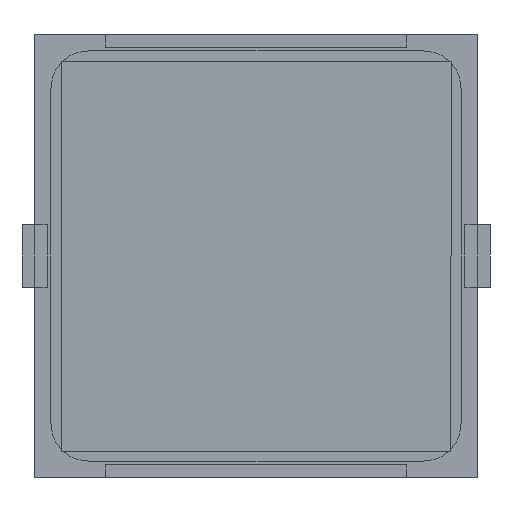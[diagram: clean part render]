
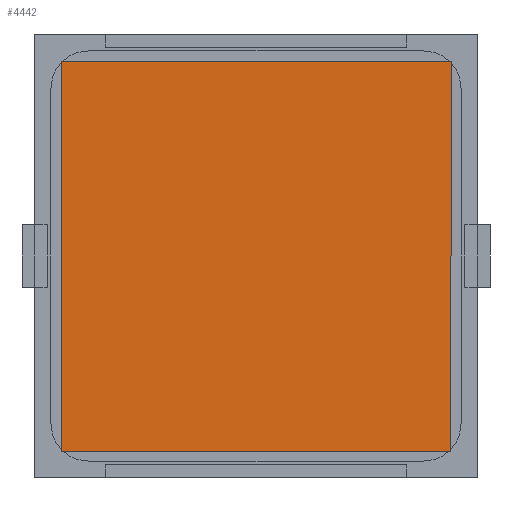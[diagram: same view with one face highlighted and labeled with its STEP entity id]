
A CAD part, front view. The second image highlights one B-rep face of the part: STEP entity #4442.
In plain terms, the highlighted planar face has unit normal (0, -1, 0).
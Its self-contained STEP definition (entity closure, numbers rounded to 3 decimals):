
#270 = CARTESIAN_POINT ( 'NONE',  ( -15.5, -0.127, 15.5 ) ) ;
#494 = VECTOR ( 'NONE', #12077, 1000. ) ;
#547 = CARTESIAN_POINT ( 'NONE',  ( -15.5, -0.127, -15.5 ) ) ;
#1603 = DIRECTION ( 'NONE',  ( -1., 0., 0. ) ) ;
#2400 = LINE ( 'NONE', #547, #3773 ) ;
#2500 = ORIENTED_EDGE ( 'NONE', *, *, #2889, .F. ) ;
#2750 = CARTESIAN_POINT ( 'NONE',  ( 15.5, -0.127, -15.5 ) ) ;
#2889 = EDGE_CURVE ( 'NONE', #11318, #10029, #7194, .T. ) ;
#3071 = CARTESIAN_POINT ( 'NONE',  ( -15.5, -0.127, 15.5 ) ) ;
#3773 = VECTOR ( 'NONE', #1603, 1000. ) ;
#3933 = EDGE_CURVE ( 'NONE', #6310, #7022, #5388, .T. ) ;
#3995 = ORIENTED_EDGE ( 'NONE', *, *, #8926, .F. ) ;
#4145 = LINE ( 'NONE', #3071, #12569 ) ;
#4263 = DIRECTION ( 'NONE',  ( 0., 1., 0. ) ) ;
#4330 = CARTESIAN_POINT ( 'NONE',  ( -15.5, -0.127, 15.5 ) ) ;
#4434 = ORIENTED_EDGE ( 'NONE', *, *, #12920, .F. ) ;
#4442 = ADVANCED_FACE ( 'NONE', ( #11593 ), #5114, .F. ) ;
#5114 = PLANE ( 'NONE',  #9697 ) ;
#5230 = DIRECTION ( 'NONE',  ( 0., 0., 1. ) ) ;
#5388 = LINE ( 'NONE', #7274, #494 ) ;
#6301 = DIRECTION ( 'NONE',  ( 1., 0., 0. ) ) ;
#6310 = VERTEX_POINT ( 'NONE', #9905 ) ;
#7022 = VERTEX_POINT ( 'NONE', #2750 ) ;
#7194 = LINE ( 'NONE', #11163, #7641 ) ;
#7274 = CARTESIAN_POINT ( 'NONE',  ( 15.5, -0.127, -15.5 ) ) ;
#7641 = VECTOR ( 'NONE', #5230, 1000. ) ;
#8657 = CARTESIAN_POINT ( 'NONE',  ( -15.5, -0.127, -15.5 ) ) ;
#8926 = EDGE_CURVE ( 'NONE', #10029, #6310, #4145, .T. ) ;
#9120 = EDGE_LOOP ( 'NONE', ( #2500, #4434, #11180, #3995 ) ) ;
#9697 = AXIS2_PLACEMENT_3D ( 'NONE', #4330, #4263, #11172 ) ;
#9905 = CARTESIAN_POINT ( 'NONE',  ( 15.5, -0.127, 15.5 ) ) ;
#10029 = VERTEX_POINT ( 'NONE', #270 ) ;
#11163 = CARTESIAN_POINT ( 'NONE',  ( -15.5, -0.127, -15.5 ) ) ;
#11172 = DIRECTION ( 'NONE',  ( 0., 0., 1. ) ) ;
#11180 = ORIENTED_EDGE ( 'NONE', *, *, #3933, .F. ) ;
#11318 = VERTEX_POINT ( 'NONE', #8657 ) ;
#11593 = FACE_OUTER_BOUND ( 'NONE', #9120, .T. ) ;
#12077 = DIRECTION ( 'NONE',  ( 0., 0., -1. ) ) ;
#12569 = VECTOR ( 'NONE', #6301, 1000. ) ;
#12920 = EDGE_CURVE ( 'NONE', #7022, #11318, #2400, .T. ) ;
